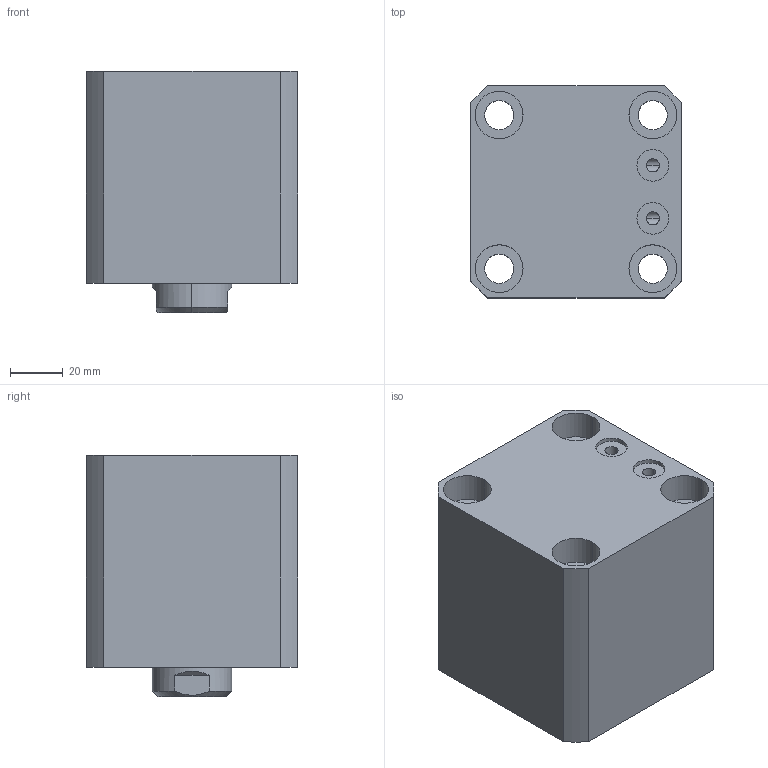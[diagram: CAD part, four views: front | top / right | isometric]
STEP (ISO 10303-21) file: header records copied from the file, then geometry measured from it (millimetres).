
FILE_DESCRIPTION (( 'STEP AP203' ), '1' );
FILE_NAME ('CHTB-SDMA50-20N.STEP', '2018-05-19T03:41:43', ( '' ), ( '' ), 'SwSTEP 2.0', 'SolidWorks 2015', '' );
FILE_SCHEMA (( 'CONFIG_CONTROL_DESIGN' ));
Length unit declared in the file: millimetre
Products named in the file (5): CHTM-SDMA50QG; 活塞杆SDMB50-20N; 掛极SDMB50-20N; CHTB-SDMA50-20N; M6
Assembly tree (5 placements, depth 2):
  CHTB-SDMA50-20N
    掛极SDMB50-20N
    活塞杆SDMB50-20N
    CHTM-SDMA50QG
    M6  x2
Bounding box: 80 x 80 x 91 mm (x, y, z)
Volume: 428138.8 mm3; surface area: 93514.4 mm2
Topology: 5 solids, 5 shells, 263 faces, 693 edges, 458 vertices
Faces by surface type: cylinder 135, plane 55, cone 31, bspline 26, torus 16
Entity records: 13963 total; most frequent: CARTESIAN_POINT 8102, ORIENTED_EDGE 1188, DIRECTION 1016, EDGE_CURVE 594, AXIS2_PLACEMENT_3D 416, VERTEX_POINT 397, EDGE_LOOP 269, ADVANCED_FACE 228
